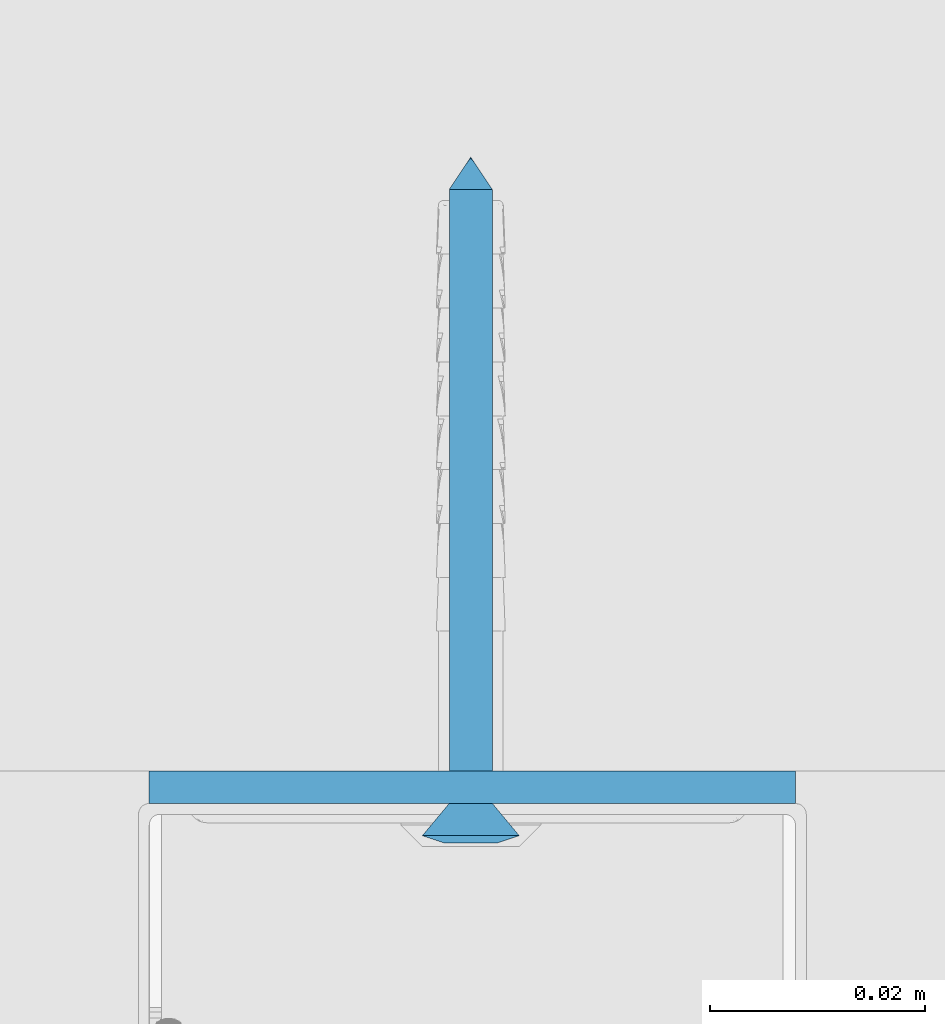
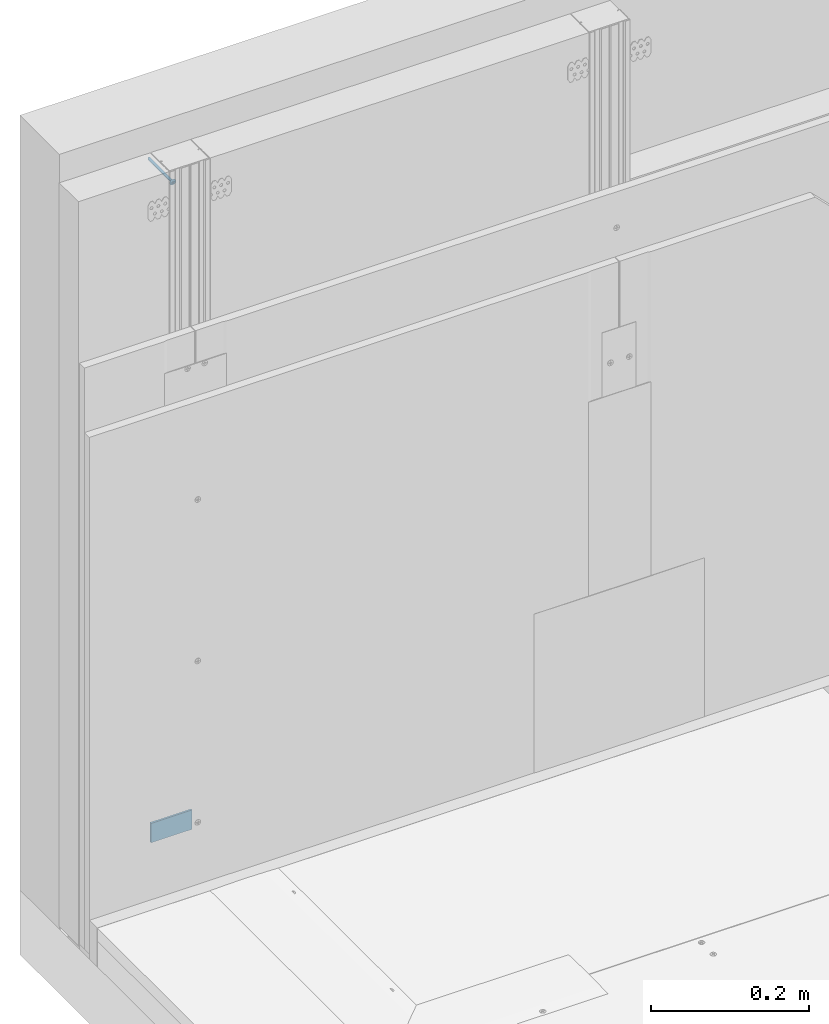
# One storey, part 31 of 47: 2 walls.
"""IFC2X3 building model written with IfcOpenShell, lengths in millimetres."""

from ifc_helpers import new_model, entity, si_unit, converted_unit, direction, frame, origin, origin_with_axes, place, context, project, spatial, faceted_brep, element, save


model = new_model("IFC2X3")

# Units and contexts
model_context = context("Model", 3, precision=1e-05, world=origin(), true_north=direction((0.0, 1.0, 0.0)))
ifc_project = project(units=[si_unit("LENGTHUNIT", "METRE", prefix="MILLI"), si_unit("AREAUNIT", "SQUARE_METRE"), si_unit("VOLUMEUNIT", "CUBIC_METRE"), converted_unit("PLANEANGLEUNIT", "DEGREE", entity("IfcPlaneAngleMeasure", 0.01745), si_unit("PLANEANGLEUNIT", "RADIAN"), dimensions=[0, 0, 0, 0, 0, 0, 0]), si_unit("SOLIDANGLEUNIT", "STERADIAN"), si_unit("MASSUNIT", "GRAM"), si_unit("TIMEUNIT", "SECOND"), si_unit("THERMODYNAMICTEMPERATUREUNIT", "DEGREE_CELSIUS"), si_unit("LUMINOUSINTENSITYUNIT", "LUMEN")], contexts=[model_context])

# Site, building, storey
site_placement = place(None, origin_with_axes())
site = spatial("IfcSite", under=ifc_project, at=site_placement, Name="Default Site", CompositionType="ELEMENT")
building_placement = place(site_placement, origin_with_axes())
building = spatial("IfcBuilding", under=site, at=building_placement, Name="Default Building", CompositionType="ELEMENT")
storey_placement = place(building_placement, origin_with_axes())
storey = spatial("IfcBuildingStorey", under=building, at=storey_placement, Name="Default Building Storey", CompositionType="ELEMENT", Elevation=0.0)

# Walls
wall_1_placement = place(storey_placement, frame((5741.263760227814, 2016.32861108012, 2539.671890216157), z_axis=(-6.858158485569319e-13, -1.0, 7.642380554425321e-14), x_axis=(-1.647602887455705e-11, 7.642380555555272e-14, 1.0)))
element("IfcWall", 1, at=wall_1_placement, inside=storey, Name="Kołek rozporowy min. fi 6", context=model_context, shape_type="Brep", body=[
    faceted_brep([(-1438.31414949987, 3453.283223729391, -0.4642567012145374), (-1435.814149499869, 3453.283223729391, -3.464256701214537), (-1435.78952618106, 3452.97035479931, -3.464256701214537), (-1438.258747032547, 3452.57926863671, -0.4642567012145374), (-1435.71626253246, 3452.665189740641, -3.464256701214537), (-1438.093903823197, 3451.892647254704, -0.4642567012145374), (-1435.596162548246, 3452.375242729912, -3.464256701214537), (-1437.823678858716, 3451.240266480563, -0.4642567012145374), (-1435.432183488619, 3452.107653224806, -3.464256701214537), (-1437.454725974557, 3450.638190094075, -0.4642567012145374), (-1435.228363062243, 3451.869010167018, -3.464256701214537), (-1436.996130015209, 3450.101243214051, -0.4642567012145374), (-1434.989720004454, 3451.665189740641, -3.464256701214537), (-1436.459183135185, 3449.642647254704, -0.4642567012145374), (-1434.722130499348, 3451.501210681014, -3.464256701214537), (-1435.857106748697, 3449.273694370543, -0.4642567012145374), (-1434.432183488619, 3451.381110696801, -3.464256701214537), (-1435.204725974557, 3449.003469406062, -0.4642567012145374), (-1434.12701842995, 3451.307847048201, -3.464256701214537), (-1434.51810459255, 3448.838626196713, -0.4642567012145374), (-1433.814149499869, 3451.283223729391, -3.464256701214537), (-1433.814149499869, 3448.783223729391, -0.4642567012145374), (-1433.501280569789, 3451.307847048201, -3.464256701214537), (-1433.110194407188, 3448.838626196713, -0.4642567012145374), (-1433.19611551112, 3451.381110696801, -3.464256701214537), (-1432.423573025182, 3449.003469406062, -0.4642567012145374), (-1432.906168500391, 3451.501210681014, -3.464256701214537), (-1431.771192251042, 3449.273694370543, -0.4642567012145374), (-1432.638578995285, 3451.665189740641, -3.464256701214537), (-1431.169115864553, 3449.642647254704, -0.4642567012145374), (-1432.399935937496, 3451.869010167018, -3.464256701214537), (-1430.63216898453, 3450.101243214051, -0.4642567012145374), (-1432.196115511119, 3452.107653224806, -3.464256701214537), (-1430.173573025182, 3450.638190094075, -0.4642567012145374), (-1432.032136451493, 3452.375242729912, -3.464256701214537), (-1429.804620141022, 3451.240266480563, -0.4642567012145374), (-1431.912036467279, 3452.665189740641, -3.464256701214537), (-1429.534395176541, 3451.892647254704, -0.4642567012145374), (-1431.838772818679, 3453.596092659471, -3.464256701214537), (-1429.369551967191, 3453.987178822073, -0.4642567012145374), (-1429.314149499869, 3453.283223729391, -0.4642567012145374), (-1431.81414949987, 3453.283223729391, -3.464256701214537), (-1429.369551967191, 3452.57926863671, -0.4642567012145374), (-1431.838772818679, 3452.97035479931, -3.464256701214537), (-1431.912036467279, 3453.901257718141, -3.464256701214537), (-1429.534395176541, 3454.673800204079, -0.4642567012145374), (-1432.032136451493, 3454.19120472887, -3.464256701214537), (-1429.804620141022, 3455.326180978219, -0.4642567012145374), (-1432.196115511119, 3454.458794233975, -3.464256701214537), (-1430.173573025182, 3455.928257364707, -0.4642567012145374), (-1432.399935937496, 3454.697437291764, -3.464256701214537), (-1430.63216898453, 3456.465204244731, -0.4642567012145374), (-1432.638578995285, 3454.901257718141, -3.464256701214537), (-1431.169115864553, 3456.923800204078, -0.4642567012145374), (-1432.906168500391, 3455.065236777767, -3.464256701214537), (-1431.771192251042, 3457.292753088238, -0.4642567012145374), (-1433.19611551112, 3455.185336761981, -3.464256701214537), (-1432.423573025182, 3457.562978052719, -0.4642567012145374), (-1433.501280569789, 3455.258600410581, -3.464256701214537), (-1433.110194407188, 3457.727821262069, -0.4642567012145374), (-1433.814149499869, 3455.283223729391, -3.464256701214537), (-1433.814149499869, 3457.783223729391, -0.4642567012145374), (-1434.34306778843, 3457.752031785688, -0.4642567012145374), (-1434.12701842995, 3455.258600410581, -3.464256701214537), (-1434.432183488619, 3455.185336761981, -3.464256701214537), (-1434.864653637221, 3457.658888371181, -0.4642567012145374), (-1435.371676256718, 3457.505084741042, -0.4642567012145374), (-1434.722130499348, 3455.065236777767, -3.464256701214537), (-1435.857106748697, 3457.292753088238, -0.4642567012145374), (-1434.989720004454, 3454.901257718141, -3.464256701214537), (-1435.228363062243, 3454.697437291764, -3.464256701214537), (-1436.314215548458, 3457.024836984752, -0.4642567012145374), (-1436.736665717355, 3456.705050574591, -0.4642567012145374), (-1437.11860079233, 3456.337827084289, -0.4642567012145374), (-1437.454725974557, 3455.928257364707, -0.4642567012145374), (-1435.432183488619, 3454.458794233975, -3.464256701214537), (-1435.596162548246, 3454.19120472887, -3.464256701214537), (-1437.823678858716, 3455.326180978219, -0.4642567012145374), (-1435.71626253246, 3453.901257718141, -3.464256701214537), (-1438.093903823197, 3454.673800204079, -0.4642567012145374), (-1435.78952618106, 3453.596092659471, -3.464256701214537), (-1438.258747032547, 3453.987178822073, -0.4642567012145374), (-1434.205235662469, 3455.752444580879, 0.2007375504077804), (-1433.814149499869, 3455.78322372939, 0.2007375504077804), (-1434.586691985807, 3455.660865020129, 0.2007375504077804), (-1434.949125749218, 3455.510740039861, 0.2007375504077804), (-1435.283612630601, 3455.305766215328, 0.2007375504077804), (-1435.581916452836, 3455.050990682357, 0.2007375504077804), (-1435.836691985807, 3454.752686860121, 0.2007375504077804), (-1436.04166581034, 3454.41819997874, 0.2007375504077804), (-1436.191790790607, 3454.055766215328, 0.2007375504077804), (-1436.283370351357, 3453.674309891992, 0.2007375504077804), (-1436.314149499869, 3453.283223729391, 0.2007375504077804), (-1436.283370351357, 3452.892137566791, 0.2007375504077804), (-1436.191790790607, 3452.510681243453, 0.2007375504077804), (-1436.04166581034, 3452.148247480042, 0.2007375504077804), (-1435.836691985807, 3451.81376059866, 0.200737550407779), (-1435.581916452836, 3451.515456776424, 0.2007375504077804), (-1435.283612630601, 3451.260681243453, 0.2007375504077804), (-1434.949125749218, 3451.05570741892, 0.2007375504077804), (-1434.586691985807, 3450.905582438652, 0.2007375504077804), (-1433.423063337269, 3450.814002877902, 0.2007375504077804), (-1433.814149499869, 3450.783223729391, 0.2007375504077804), (-1434.205235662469, 3450.814002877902, 0.2007375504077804), (-1433.041607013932, 3450.905582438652, 0.2007375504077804), (-1432.67917325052, 3451.05570741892, 0.2007375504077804), (-1432.344686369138, 3451.260681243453, 0.2007375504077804), (-1432.046382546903, 3451.515456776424, 0.2007375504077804), (-1431.791607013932, 3451.81376059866, 0.2007375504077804), (-1431.586633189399, 3452.148247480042, 0.2007375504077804), (-1431.436508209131, 3452.510681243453, 0.2007375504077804), (-1431.344928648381, 3452.892137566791, 0.2007375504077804), (-1431.314149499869, 3453.283223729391, 0.2007375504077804), (-1431.344928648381, 3453.674309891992, 0.2007375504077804), (-1431.436508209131, 3454.055766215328, 0.2007375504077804), (-1431.586633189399, 3454.41819997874, 0.2007375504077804), (-1431.791607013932, 3454.752686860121, 0.2007375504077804), (-1432.046382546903, 3455.050990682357, 0.2007375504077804), (-1432.344686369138, 3455.305766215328, 0.2007375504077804), (-1432.67917325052, 3455.510740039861, 0.2007375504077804), (-1433.041607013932, 3455.660865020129, 0.2007375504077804), (-1433.423063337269, 3455.752444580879, 0.2007375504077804), (-1433.814149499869, 3453.283223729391, -63.46425670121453), (-1435.789526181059, 3452.97035479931, -60.46425670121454), (-1435.814149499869, 3453.283223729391, -60.46425670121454), (-1435.716262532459, 3452.665189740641, -60.46425670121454), (-1435.596162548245, 3452.375242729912, -60.46425670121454), (-1435.432183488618, 3452.107653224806, -60.46425670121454), (-1435.228363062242, 3451.869010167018, -60.46425670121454), (-1434.989720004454, 3451.665189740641, -60.46425670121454), (-1434.722130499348, 3451.501210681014, -60.46425670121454), (-1434.432183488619, 3451.381110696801, -60.46425670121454), (-1434.127018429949, 3451.307847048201, -60.46425670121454), (-1433.814149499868, 3451.283223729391, -60.46425670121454), (-1433.501280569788, 3451.307847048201, -60.46425670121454), (-1433.196115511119, 3451.381110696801, -60.46425670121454), (-1432.90616850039, 3451.501210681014, -60.46425670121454), (-1432.638578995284, 3451.665189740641, -60.46425670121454), (-1432.399935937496, 3451.869010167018, -60.46425670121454), (-1432.196115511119, 3452.107653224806, -60.46425670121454), (-1432.032136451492, 3452.375242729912, -60.46425670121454), (-1431.912036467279, 3452.665189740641, -60.46425670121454), (-1431.838772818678, 3452.97035479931, -60.46425670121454), (-1431.814149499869, 3453.283223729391, -60.46425670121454), (-1431.838772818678, 3453.596092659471, -60.46425670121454), (-1431.912036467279, 3453.901257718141, -60.46425670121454), (-1432.032136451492, 3454.19120472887, -60.46425670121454), (-1432.196115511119, 3454.458794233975, -60.46425670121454), (-1432.399935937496, 3454.697437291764, -60.46425670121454), (-1432.638578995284, 3454.901257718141, -60.46425670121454), (-1432.90616850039, 3455.065236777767, -60.46425670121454), (-1433.196115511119, 3455.185336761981, -60.46425670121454), (-1433.501280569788, 3455.258600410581, -60.46425670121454), (-1433.814149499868, 3455.283223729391, -60.46425670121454), (-1434.127018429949, 3455.258600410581, -60.46425670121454), (-1434.432183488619, 3455.185336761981, -60.46425670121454), (-1434.722130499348, 3455.065236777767, -60.46425670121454), (-1434.989720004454, 3454.901257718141, -60.46425670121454), (-1435.228363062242, 3454.697437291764, -60.46425670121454), (-1435.432183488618, 3454.458794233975, -60.46425670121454), (-1435.596162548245, 3454.19120472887, -60.46425670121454), (-1435.716262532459, 3453.901257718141, -60.46425670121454), (-1435.789526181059, 3453.596092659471, -60.46425670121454), (-1435.814149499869, 3453.783223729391, 0.04999999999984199), (-1436.04166581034, 3454.41819997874, 0.04999999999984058), (-1436.191790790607, 3454.055766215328, 0.04999999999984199), (-1435.814149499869, 3452.783223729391, 0.04999999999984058), (-1434.314149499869, 3453.783223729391, 0.04999999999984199), (-1434.314149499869, 3455.28322372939, 0.04999999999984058), (-1433.314149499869, 3455.28322372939, 0.04999999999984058), (-1433.314149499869, 3453.783223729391, 0.04999999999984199), (-1431.814149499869, 3453.783223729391, 0.04999999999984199), (-1431.814149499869, 3452.783223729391, 0.04999999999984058), (-1433.314149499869, 3452.783223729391, 0.04999999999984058), (-1433.314149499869, 3451.283223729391, 0.04999999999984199), (-1434.314149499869, 3451.283223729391, 0.04999999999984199), (-1434.314149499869, 3452.783223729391, 0.04999999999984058), (-1436.283370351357, 3453.674309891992, 0.04999999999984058), (-1436.314149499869, 3453.283223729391, 0.04999999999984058), (-1436.283370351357, 3452.892137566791, 0.04999999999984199), (-1436.191790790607, 3452.510681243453, 0.04999999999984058), (-1436.04166581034, 3452.148247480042, 0.04999999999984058), (-1435.836691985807, 3451.81376059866, 0.04999999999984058), (-1435.581916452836, 3451.515456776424, 0.04999999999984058), (-1435.283612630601, 3451.260681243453, 0.04999999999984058), (-1434.949125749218, 3451.05570741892, 0.04999999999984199), (-1434.586691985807, 3450.905582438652, 0.04999999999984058), (-1434.205235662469, 3450.814002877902, 0.04999999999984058), (-1433.814149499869, 3450.783223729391, 0.04999999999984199), (-1433.423063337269, 3450.814002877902, 0.04999999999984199), (-1433.041607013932, 3450.905582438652, 0.04999999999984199), (-1432.67917325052, 3451.05570741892, 0.04999999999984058), (-1432.344686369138, 3451.260681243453, 0.04999999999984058), (-1432.046382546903, 3451.515456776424, 0.04999999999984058), (-1431.791607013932, 3451.81376059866, 0.04999999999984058), (-1431.586633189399, 3452.148247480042, 0.04999999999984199), (-1431.436508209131, 3452.510681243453, 0.04999999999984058), (-1431.344928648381, 3452.892137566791, 0.04999999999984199), (-1431.314149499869, 3453.283223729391, 0.04999999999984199), (-1431.344928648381, 3453.674309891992, 0.04999999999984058), (-1431.436508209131, 3454.055766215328, 0.04999999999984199), (-1431.586633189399, 3454.41819997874, 0.04999999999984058), (-1431.791607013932, 3454.752686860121, 0.04999999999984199), (-1432.046382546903, 3455.050990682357, 0.04999999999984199), (-1432.344686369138, 3455.305766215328, 0.04999999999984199), (-1432.67917325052, 3455.510740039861, 0.04999999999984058), (-1433.041607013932, 3455.660865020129, 0.04999999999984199), (-1433.423063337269, 3455.752444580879, 0.04999999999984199), (-1433.814149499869, 3455.78322372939, 0.04999999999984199), (-1434.205235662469, 3455.752444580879, 0.04999999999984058), (-1434.586691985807, 3455.660865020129, 0.04999999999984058), (-1434.949125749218, 3455.510740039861, 0.04999999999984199), (-1435.283612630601, 3455.305766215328, 0.04999999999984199), (-1435.581916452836, 3455.050990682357, 0.04999999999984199), (-1435.836691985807, 3454.752686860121, 0.04999999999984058), (-1434.314149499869, 3452.783223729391, -1.79926244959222), (-1434.314149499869, 3451.283223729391, -1.799262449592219), (-1433.314149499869, 3451.283223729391, -1.799262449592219), (-1433.314149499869, 3452.783223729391, -1.79926244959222), (-1431.81414949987, 3452.783223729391, -1.79926244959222), (-1431.81414949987, 3453.783223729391, -1.799262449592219), (-1433.314149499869, 3453.783223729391, -1.799262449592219), (-1433.314149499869, 3455.28322372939, -1.79926244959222), (-1434.314149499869, 3455.28322372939, -1.79926244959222), (-1434.314149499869, 3453.783223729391, -1.799262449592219), (-1435.814149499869, 3453.783223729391, -1.799262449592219), (-1435.814149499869, 3452.783223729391, -1.79926244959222)], [[[0, 1, 2, 3]], [[4, 5, 3, 2]], [[6, 7, 5, 4]], [[7, 6, 8, 9]], [[10, 11, 9, 8]], [[11, 10, 12, 13]], [[14, 15, 13, 12]], [[16, 17, 15, 14]], [[17, 16, 18, 19]], [[20, 21, 19, 18]], [[21, 20, 22, 23]], [[24, 25, 23, 22]], [[26, 27, 25, 24]], [[27, 26, 28, 29]], [[30, 31, 29, 28]], [[31, 30, 32, 33]], [[34, 35, 33, 32]], [[36, 37, 35, 34]], [[38, 39, 40, 41]], [[41, 40, 42, 43]], [[37, 36, 43, 42]], [[44, 45, 39, 38]], [[46, 47, 45, 44]], [[47, 46, 48, 49]], [[50, 51, 49, 48]], [[51, 50, 52, 53]], [[54, 55, 53, 52]], [[56, 57, 55, 54]], [[57, 56, 58, 59]], [[60, 61, 59, 58]], [[62, 61, 63]], [[61, 60, 63]], [[63, 64, 62]], [[64, 65, 62]], [[66, 65, 64]], [[64, 67, 66]], [[67, 68, 66]], [[69, 70, 71]], [[70, 72, 71]], [[71, 68, 69]], [[68, 67, 69]], [[70, 73, 72]], [[74, 73, 75]], [[73, 70, 75]], [[76, 77, 74, 75]], [[78, 79, 77, 76]], [[79, 78, 80, 81]], [[1, 0, 81, 80]], [[82, 83, 62]], [[83, 61, 62]], [[62, 65, 82]], [[65, 84, 82]], [[66, 68, 84]], [[68, 85, 84]], [[84, 65, 66]], [[86, 85, 71]], [[85, 68, 71]], [[72, 73, 87]], [[87, 86, 72]], [[86, 71, 72]], [[88, 87, 74]], [[87, 73, 74]], [[77, 89, 88, 74]], [[79, 90, 89, 77]], [[90, 79, 81, 91]], [[0, 92, 91, 81]], [[92, 0, 3, 93]], [[5, 94, 93, 3]], [[7, 95, 94, 5]], [[95, 7, 9, 96]], [[11, 97, 96, 9]], [[97, 11, 13, 98]], [[15, 99, 98, 13]], [[17, 100, 99, 15]], [[23, 101, 102, 21]], [[21, 102, 103, 19]], [[100, 17, 19, 103]], [[25, 104, 101, 23]], [[27, 105, 104, 25]], [[105, 27, 29, 106]], [[31, 107, 106, 29]], [[107, 31, 33, 108]], [[35, 109, 108, 33]], [[37, 110, 109, 35]], [[110, 37, 42, 111]], [[40, 112, 111, 42]], [[112, 40, 39, 113]], [[45, 114, 113, 39]], [[47, 115, 114, 45]], [[115, 47, 49, 116]], [[51, 117, 116, 49]], [[117, 51, 53, 118]], [[55, 119, 118, 53]], [[57, 120, 119, 55]], [[120, 57, 59, 121]], [[61, 83, 121, 59]], [[122, 123, 124]], [[122, 125, 123]], [[122, 126, 125]], [[127, 126, 122]], [[122, 128, 127]], [[129, 128, 122]], [[122, 130, 129]], [[122, 131, 130]], [[132, 131, 122]], [[122, 133, 132]], [[134, 133, 122]], [[122, 135, 134]], [[122, 136, 135]], [[137, 136, 122]], [[122, 138, 137]], [[139, 138, 122]], [[122, 140, 139]], [[122, 141, 140]], [[142, 141, 122]], [[122, 143, 142]], [[144, 143, 122]], [[122, 145, 144]], [[122, 146, 145]], [[147, 146, 122]], [[122, 148, 147]], [[149, 148, 122]], [[122, 150, 149]], [[122, 151, 150]], [[152, 151, 122]], [[122, 153, 152]], [[154, 153, 122]], [[122, 155, 154]], [[122, 156, 155]], [[157, 156, 122]], [[122, 158, 157]], [[159, 158, 122]], [[122, 160, 159]], [[122, 161, 160]], [[162, 161, 122]], [[124, 162, 122]], [[1, 124, 123, 2]], [[125, 4, 2, 123]], [[126, 6, 4, 125]], [[6, 126, 127, 8]], [[128, 10, 8, 127]], [[10, 128, 129, 12]], [[130, 14, 12, 129]], [[131, 16, 14, 130]], [[16, 131, 132, 18]], [[133, 20, 18, 132]], [[20, 133, 134, 22]], [[135, 24, 22, 134]], [[136, 26, 24, 135]], [[26, 136, 137, 28]], [[138, 30, 28, 137]], [[30, 138, 139, 32]], [[140, 34, 32, 139]], [[141, 36, 34, 140]], [[144, 38, 41, 143]], [[143, 41, 43, 142]], [[36, 141, 142, 43]], [[145, 44, 38, 144]], [[146, 46, 44, 145]], [[46, 146, 147, 48]], [[148, 50, 48, 147]], [[50, 148, 149, 52]], [[150, 54, 52, 149]], [[151, 56, 54, 150]], [[56, 151, 152, 58]], [[153, 60, 58, 152]], [[60, 153, 154, 63]], [[155, 64, 63, 154]], [[156, 67, 64, 155]], [[67, 156, 157, 69]], [[158, 70, 69, 157]], [[70, 158, 159, 75]], [[160, 76, 75, 159]], [[161, 78, 76, 160]], [[78, 161, 162, 80]], [[124, 1, 80, 162]], [[163, 164, 165, 166]], [[163, 167, 168, 169, 170, 171, 172, 173, 174, 175, 176, 166, 165, 177, 178, 179, 180, 181, 182, 183, 184, 185, 186, 187, 188, 189, 190, 191, 192, 193, 194, 195, 196, 197, 198, 199, 200, 201, 202, 203, 204, 205, 206, 207, 208, 209, 210, 211, 212, 213, 214, 164]], [[199, 198, 112, 113]], [[113, 114, 200, 199]], [[114, 115, 201, 200]], [[202, 201, 115, 116]], [[116, 117, 203, 202]], [[204, 203, 117, 118]], [[118, 119, 205, 204]], [[119, 120, 206, 205]], [[207, 206, 120, 121]], [[121, 83, 208, 207]], [[209, 208, 83, 82]], [[82, 84, 210, 209]], [[84, 85, 211, 210]], [[212, 211, 85, 86]], [[86, 87, 213, 212]], [[214, 213, 87, 88]], [[88, 89, 164, 214]], [[89, 90, 165, 164]], [[92, 93, 179, 178]], [[91, 92, 178, 177]], [[177, 165, 90, 91]], [[93, 94, 180, 179]], [[94, 95, 181, 180]], [[182, 181, 95, 96]], [[96, 97, 183, 182]], [[184, 183, 97, 98]], [[98, 99, 185, 184]], [[99, 100, 186, 185]], [[187, 186, 100, 103]], [[103, 102, 188, 187]], [[189, 188, 102, 101]], [[101, 104, 190, 189]], [[104, 105, 191, 190]], [[192, 191, 105, 106]], [[106, 107, 193, 192]], [[194, 193, 107, 108]], [[108, 109, 195, 194]], [[109, 110, 196, 195]], [[197, 196, 110, 111]], [[111, 112, 198, 197]], [[215, 216, 217, 218, 219, 220, 221, 222, 223, 224, 225, 226]], [[216, 175, 174, 217]], [[215, 176, 175, 216]], [[226, 166, 176, 215]], [[225, 163, 166, 226]], [[224, 167, 163, 225]], [[223, 168, 167, 224]], [[222, 169, 168, 223]], [[221, 170, 169, 222]], [[220, 171, 170, 221]], [[219, 172, 171, 220]], [[218, 173, 172, 219]], [[217, 174, 173, 218]]]),
])
wall_2_placement = place(storey_placement, frame((2258.12456361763, 2019.778611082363, 120.9602480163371), z_axis=(0.0, 0.0, 1.0), x_axis=(1.0, 0.0, 0.0)))
element("IfcWall", 2, at=wall_2_placement, inside=storey, Name="Taśma uszczelniająca piankowa RIGIPS szer.30mm", context=model_context, shape_type="Brep", body=[
    faceted_brep([(59.99999999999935, 0.0, 4.511946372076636e-12), (0.0, 0.0, 0.0), (1.082867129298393e-12, -2.237925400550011e-11, -30.00000000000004), (60.00000000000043, -2.237925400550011e-11, -29.99999999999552), (0.0, 3.00000000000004, 0.0), (1.082867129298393e-12, 2.999999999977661, -30.00000000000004), (60.00000000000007, 3.00000000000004, 0.0), (60.00000000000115, 2.999999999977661, -30.00000000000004)], [[[0, 1, 2, 3]], [[1, 4, 5, 2]], [[4, 6, 7, 5]], [[6, 0, 3, 7]], [[7, 3, 2, 5]], [[0, 6, 4, 1]]]),
])

save(model, "model.ifc")
